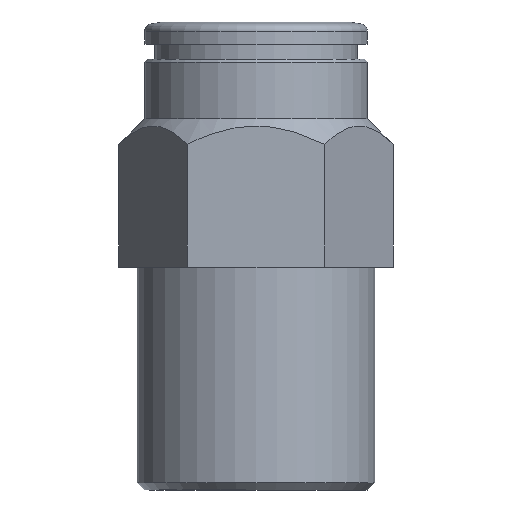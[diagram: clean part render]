
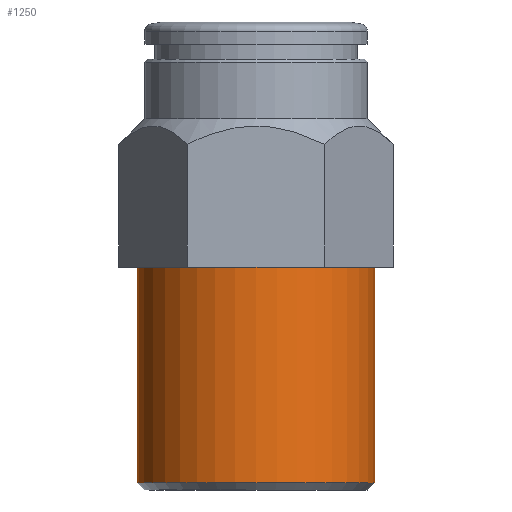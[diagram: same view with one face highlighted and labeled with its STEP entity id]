
A CAD part, front view. The second image highlights one B-rep face of the part: STEP entity #1250.
In plain terms, the highlighted cylindrical face has radius 8 mm (diameter 16 mm), a full revolution.
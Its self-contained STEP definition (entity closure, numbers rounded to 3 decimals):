
#1250=ADVANCED_FACE('', (#1260,#1270), #1280, .T.);
#4390=AXIS2_PLACEMENT_3D('Ax2Pl3d', #4400, #4410, #4420);
#4430=AXIS2_PLACEMENT_3D('Ax2Pl3d', #4440, #4450, #4460);
#4470=AXIS2_PLACEMENT_3D('Ax2Pl3d', #4480, #4490, #4500);
#4510=AXIS2_PLACEMENT_3D('Ax2Pl3d', #4520, #4530, #4540);
#4550=AXIS2_PLACEMENT_3D('Ax2Pl3d', #4560, #4570, #4580);
#4590=AXIS2_PLACEMENT_3D('Ax2Pl3d', #4600, #4610, #4620);
#4630=AXIS2_PLACEMENT_3D('Ax2Pl3d', #4640, #4650, #4660);
#4670=AXIS2_PLACEMENT_3D('Ax2Pl3d', #4680, #4690, #4700);
#6590=CARTESIAN_POINT('', (0.23,15.636,15.996));
#6630=CARTESIAN_POINT('', (7.158,19.636,15.996));
#6680=CARTESIAN_POINT('', (0.23,7.636,15.996));
#6740=CARTESIAN_POINT('', (7.158,3.636,15.996));
#4400=CARTESIAN_POINT('HicPkt', (7.158,11.636,
15.996));
#6790=CARTESIAN_POINT('', (14.086,7.636,15.996));
#4440=CARTESIAN_POINT('HicPkt', (7.158,11.636,
15.996));
#4480=CARTESIAN_POINT('HicPkt', (7.158,11.636,
1.496));
#6810=CARTESIAN_POINT('', (7.158,3.636,1.496));
#4520=CARTESIAN_POINT('HicPkt', (7.158,11.636,
15.996));
#6820=CARTESIAN_POINT('', (14.086,15.636,15.996));
#4560=CARTESIAN_POINT('HicPkt', (7.158,11.636,
15.996));
#4600=CARTESIAN_POINT('HicPkt', (7.158,11.636,
15.996));
#4640=CARTESIAN_POINT('HicPkt', (7.158,11.636,
15.996));
#4680=CARTESIAN_POINT('HicPkt', (7.158,11.636,
15.996));
#7240=CIRCLE('Circle', #4390, 8.);
#7250=CIRCLE('Circle', #4470, 8.);
#7260=CIRCLE('Circle', #4510, 8.);
#7270=CIRCLE('Circle', #4550, 8.);
#7280=CIRCLE('Circle', #4590, 8.);
#7290=CIRCLE('Circle', #4630, 8.);
#7300=CIRCLE('Circle', #4670, 8.);
#1280=CYLINDRICAL_SURFACE('Zyl', #4430, 8.);
#4410=DIRECTION('Axis', (0.,0.,1.));
#4420=DIRECTION('RefDirection', (1.,0.,-0.));
#4450=DIRECTION('Axis', (0.,0.,-1.));
#4460=DIRECTION('RefDirection', (-1.,-0.,0.));
#4490=DIRECTION('Axis', (0.,0.,1.));
#4500=DIRECTION('RefDirection', (1.,0.,-0.));
#4530=DIRECTION('Axis', (0.,0.,1.));
#4540=DIRECTION('RefDirection', (1.,0.,-0.));
#4570=DIRECTION('Axis', (0.,0.,-1.)
);
#4580=DIRECTION('RefDirection', (1.,0.,
0.));
#4610=DIRECTION('Axis', (0.,0.,-1.)
);
#4620=DIRECTION('RefDirection', (1.,0.,
0.));
#4650=DIRECTION('Axis', (0.,0.,-1.)
);
#4660=DIRECTION('RefDirection', (1.,0.,
0.));
#4690=DIRECTION('Axis', (0.,0.,-1.)
);
#4700=DIRECTION('RefDirection', (1.,0.,
0.));
#10710=EDGE_CURVE('', #10620, #10720, #7240, .T.);
#10750=EDGE_CURVE('', #10760, #10760, #7250, .T.);
#10770=EDGE_CURVE('', #10720, #10780, #7260, .T.);
#10790=EDGE_CURVE('', #10620, #10520, #7270, .T.);
#10800=EDGE_CURVE('', #10520, #10370, #7280, .T.);
#10810=EDGE_CURVE('', #10370, #10430, #7290, .T.);
#10820=EDGE_CURVE('', #10430, #10780, #7300, .T.);
#12350=EDGE_LOOP('Edge_loop', (#12360));
#12370=EDGE_LOOP('Edge_loop', (#12380,#12390,#12400,#12410,#12420,
#12430));
#1270=FACE_BOUND('', #12370, .T.);
#1260=FACE_OUTER_BOUND('Face_outer_bound', #12350, .T.);
#12360=ORIENTED_EDGE('', *, *, #10750, .T.);
#12380=ORIENTED_EDGE('', *, *, #10770, .F.);
#12390=ORIENTED_EDGE('', *, *, #10710, .F.);
#12400=ORIENTED_EDGE('', *, *, #10790, .T.);
#12410=ORIENTED_EDGE('', *, *, #10800, .T.);
#12420=ORIENTED_EDGE('', *, *, #10810, .T.);
#12430=ORIENTED_EDGE('', *, *, #10820, .T.);
#10370=VERTEX_POINT('', #6590);
#10430=VERTEX_POINT('', #6630);
#10520=VERTEX_POINT('', #6680);
#10620=VERTEX_POINT('', #6740);
#10720=VERTEX_POINT('', #6790);
#10760=VERTEX_POINT('', #6810);
#10780=VERTEX_POINT('', #6820);
